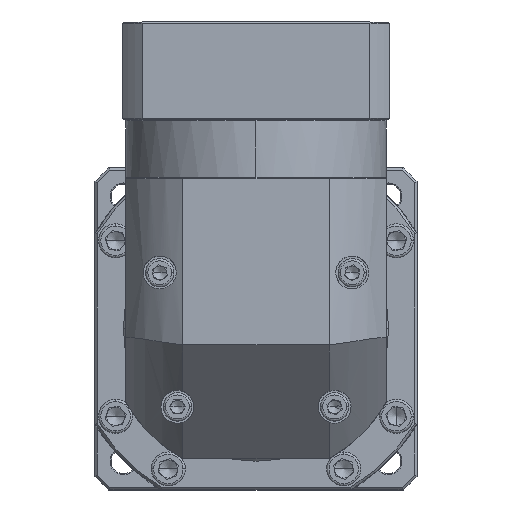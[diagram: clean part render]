
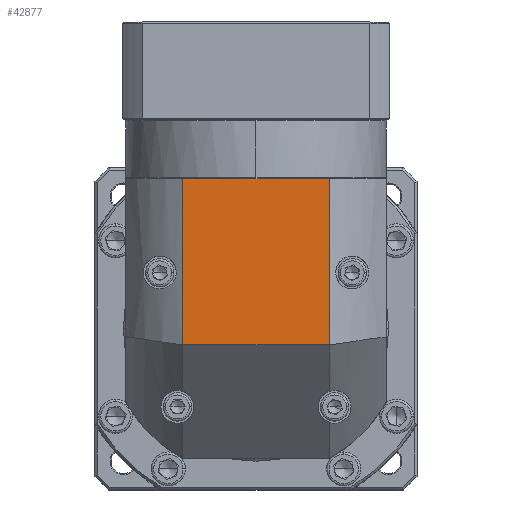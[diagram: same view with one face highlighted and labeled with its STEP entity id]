
A CAD part, top view. The second image highlights one B-rep face of the part: STEP entity #42877.
In plain terms, the highlighted planar face has unit normal (0, 0, 1).
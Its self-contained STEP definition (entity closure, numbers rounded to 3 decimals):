
#665 = DIRECTION ( 'NONE',  ( 0., 0., -1. ) ) ;
#7209 = EDGE_CURVE ( 'NONE', #94192, #106584, #47090, .T. ) ;
#11195 = CARTESIAN_POINT ( 'NONE',  ( -140.377, 71.557, 44.397 ) ) ;
#13630 = DIRECTION ( 'NONE',  ( 1., 0., 0. ) ) ;
#17904 = CARTESIAN_POINT ( 'NONE',  ( -172.777, 14.057, 44.397 ) ) ;
#18751 = CARTESIAN_POINT ( 'NONE',  ( -107.977, 14.057, 44.397 ) ) ;
#19401 = CARTESIAN_POINT ( 'NONE',  ( -172.777, 64.057, 44.397 ) ) ;
#24294 = VERTEX_POINT ( 'NONE', #48201 ) ;
#30727 = DIRECTION ( 'NONE',  ( 0., -1., 0. ) ) ;
#30948 = CARTESIAN_POINT ( 'NONE',  ( -107.977, 137.457, 44.397 ) ) ;
#34091 = ORIENTED_EDGE ( 'NONE', *, *, #7209, .F. ) ;
#35643 = CARTESIAN_POINT ( 'NONE',  ( -197.877, 137.457, 44.397 ) ) ;
#38474 = ORIENTED_EDGE ( 'NONE', *, *, #58196, .F. ) ;
#42877 = ADVANCED_FACE ( 'NONE', ( #93151 ), #79476, .F. ) ;
#45968 = CARTESIAN_POINT ( 'NONE',  ( -172.777, 137.457, 44.397 ) ) ;
#47090 = LINE ( 'NONE', #17904, #113106 ) ;
#47543 = LINE ( 'NONE', #18751, #109854 ) ;
#48201 = CARTESIAN_POINT ( 'NONE',  ( -107.977, 64.057, 44.397 ) ) ;
#50691 = EDGE_CURVE ( 'NONE', #66999, #24294, #47543, .T. ) ;
#52116 = DIRECTION ( 'NONE',  ( -1., 0., 0. ) ) ;
#58196 = EDGE_CURVE ( 'NONE', #24294, #94192, #72855, .T. ) ;
#58333 = EDGE_LOOP ( 'NONE', ( #34091, #38474, #71144, #80359 ) ) ;
#58887 = LINE ( 'NONE', #35643, #80403 ) ;
#66999 = VERTEX_POINT ( 'NONE', #30948 ) ;
#70962 = VECTOR ( 'NONE', #52116, 1000. ) ;
#71144 = ORIENTED_EDGE ( 'NONE', *, *, #50691, .F. ) ;
#72855 = LINE ( 'NONE', #120287, #70962 ) ;
#74283 = DIRECTION ( 'NONE',  ( 0., 1., 0. ) ) ;
#79476 = PLANE ( 'NONE',  #127475 ) ;
#80359 = ORIENTED_EDGE ( 'NONE', *, *, #136409, .F. ) ;
#80403 = VECTOR ( 'NONE', #13630, 1000. ) ;
#90977 = DIRECTION ( 'NONE',  ( 1., 0., 0. ) ) ;
#93151 = FACE_OUTER_BOUND ( 'NONE', #58333, .T. ) ;
#94192 = VERTEX_POINT ( 'NONE', #19401 ) ;
#106584 = VERTEX_POINT ( 'NONE', #45968 ) ;
#109854 = VECTOR ( 'NONE', #30727, 1000. ) ;
#113106 = VECTOR ( 'NONE', #74283, 1000. ) ;
#120287 = CARTESIAN_POINT ( 'NONE',  ( -197.877, 64.057, 44.397 ) ) ;
#127475 = AXIS2_PLACEMENT_3D ( 'NONE', #11195, #665, #90977 ) ;
#136409 = EDGE_CURVE ( 'NONE', #106584, #66999, #58887, .T. ) ;
